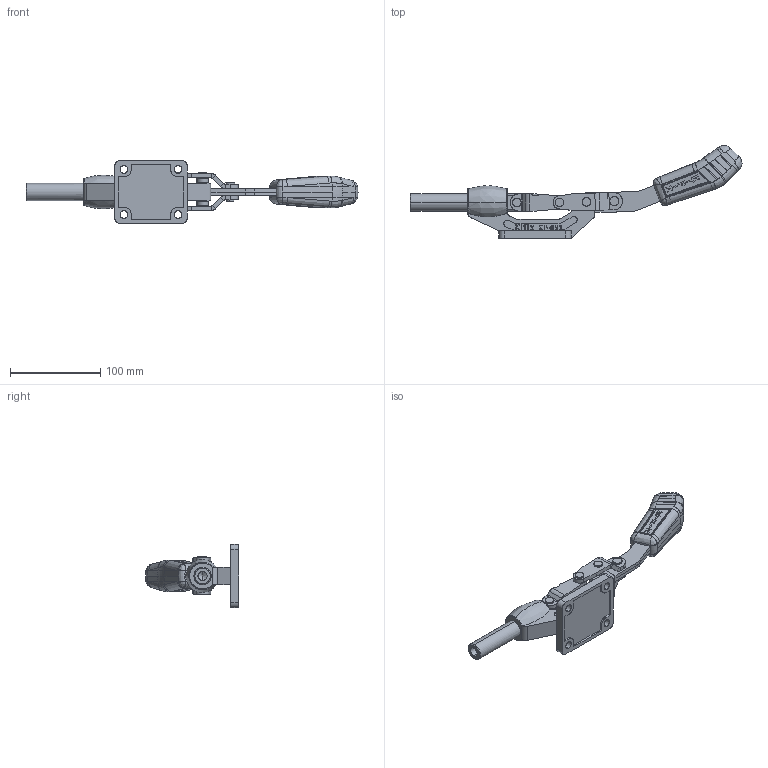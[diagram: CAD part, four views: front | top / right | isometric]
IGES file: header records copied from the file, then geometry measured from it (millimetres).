
Start section: SolidWorks IGES file using analytic representation for surfaces
Global section: file name: C:\Projetos\Grampos\KF-052\KF-052 IV\KF-052 IV.IGS; native system: SolidWorks 2014; preprocessor: SolidWorks 2014; author: Ricardo; date: 150729.153415; units: millimetre
Bounding box: 367.58 x 103.02 x 70 mm (x, y, z)
Surface area: 90866.6 mm2 (no closed solid volume)
Topology: 0 solids, 0 shells, 1036 faces, 12473 edges, 12448 vertices
Faces by surface type: bspline 766, revolution 270
